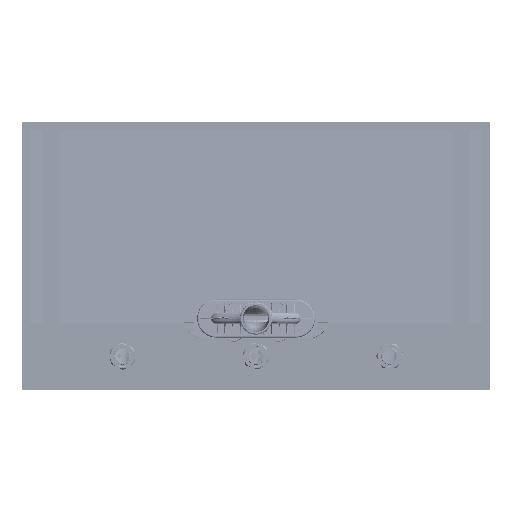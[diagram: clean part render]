
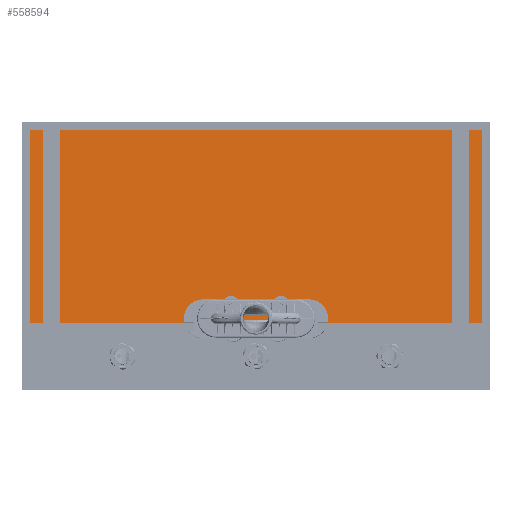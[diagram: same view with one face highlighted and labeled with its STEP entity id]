
A CAD part, front view. The second image highlights one B-rep face of the part: STEP entity #558594.
In plain terms, the highlighted planar face has unit normal (0, -0.999, 0.052).
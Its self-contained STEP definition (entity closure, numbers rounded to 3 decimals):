
#6792 = DIRECTION ( 'NONE',  ( -1., 0., 0. ) ) ;
#6980 = VECTOR ( 'NONE', #243495, 1000. ) ;
#7102 = VECTOR ( 'NONE', #518581, 1000. ) ;
#16462 = EDGE_CURVE ( 'NONE', #416846, #619046, #753327, .T. ) ;
#38619 = FACE_OUTER_BOUND ( 'NONE', #587760, .T. ) ;
#44461 = VECTOR ( 'NONE', #457268, 1000. ) ;
#47380 = EDGE_CURVE ( 'NONE', #416846, #584656, #670614, .T. ) ;
#51666 = ORIENTED_EDGE ( 'NONE', *, *, #176881, .T. ) ;
#67881 = CARTESIAN_POINT ( 'NONE',  ( -376.416, 44.89, -134.072 ) ) ;
#68359 = EDGE_CURVE ( 'NONE', #69633, #272193, #113517, .T. ) ;
#69303 = CARTESIAN_POINT ( 'NONE',  ( 31.584, 45.132, -129.449 ) ) ;
#69633 = VERTEX_POINT ( 'NONE', #612299 ) ;
#75181 = VERTEX_POINT ( 'NONE', #69303 ) ;
#90587 = CARTESIAN_POINT ( 'NONE',  ( 31.584, 44.923, -133.444 ) ) ;
#112195 = VERTEX_POINT ( 'NONE', #655115 ) ;
#112469 = CARTESIAN_POINT ( 'NONE',  ( -376.416, 39.815, -230.917 ) ) ;
#113517 = LINE ( 'NONE', #346751, #579832 ) ;
#124208 = ORIENTED_EDGE ( 'NONE', *, *, #440295, .T. ) ;
#137674 = LINE ( 'NONE', #549375, #248517 ) ;
#149799 = CARTESIAN_POINT ( 'NONE',  ( -108.416, 45.132, -129.449 ) ) ;
#150410 = ORIENTED_EDGE ( 'NONE', *, *, #378262, .T. ) ;
#158412 = CARTESIAN_POINT ( 'NONE',  ( 56.584, 44.89, -134.072 ) ) ;
#166858 = ORIENTED_EDGE ( 'NONE', *, *, #345510, .T. ) ;
#176881 = EDGE_CURVE ( 'NONE', #112195, #736261, #402160, .T. ) ;
#177339 = CARTESIAN_POINT ( 'NONE',  ( -376.416, 59.984, 153.928 ) ) ;
#178509 = ORIENTED_EDGE ( 'NONE', *, *, #47380, .F. ) ;
#185362 = CARTESIAN_POINT ( 'NONE',  ( -679.622, 59.984, 153.928 ) ) ;
#192792 = VECTOR ( 'NONE', #522388, 1000. ) ;
#197510 = VERTEX_POINT ( 'NONE', #90587 ) ;
#201489 = CARTESIAN_POINT ( 'NONE',  ( 299.584, 44.89, -134.072 ) ) ;
#206560 = LINE ( 'NONE', #272407, #400152 ) ;
#209704 = PLANE ( 'NONE',  #682498 ) ;
#215793 = CARTESIAN_POINT ( 'NONE',  ( 299.584, 60.016, 154.556 ) ) ;
#220071 = ORIENTED_EDGE ( 'NONE', *, *, #68359, .T. ) ;
#224210 = LINE ( 'NONE', #158412, #44461 ) ;
#243495 = DIRECTION ( 'NONE',  ( 1., 0., 0. ) ) ;
#248517 = VECTOR ( 'NONE', #669682, 1000. ) ;
#267929 = DIRECTION ( 'NONE',  ( 0., -0.999, 0.052 ) ) ;
#272193 = VERTEX_POINT ( 'NONE', #201489 ) ;
#272407 = CARTESIAN_POINT ( 'NONE',  ( -679.622, 44.89, -134.072 ) ) ;
#279426 = CARTESIAN_POINT ( 'NONE',  ( -679.622, 60.016, 154.556 ) ) ;
#281778 = CARTESIAN_POINT ( 'NONE',  ( -108.416, 44.923, -133.444 ) ) ;
#302170 = LINE ( 'NONE', #538986, #322814 ) ;
#322814 = VECTOR ( 'NONE', #6792, 1000. ) ;
#345510 = EDGE_CURVE ( 'NONE', #736261, #75181, #371396, .T. ) ;
#346751 = CARTESIAN_POINT ( 'NONE',  ( -679.622, 44.89, -134.072 ) ) ;
#349482 = DIRECTION ( 'NONE',  ( 0., -0.052, -0.999 ) ) ;
#369863 = ORIENTED_EDGE ( 'NONE', *, *, #16462, .T. ) ;
#371396 = LINE ( 'NONE', #149799, #706851 ) ;
#378262 = EDGE_CURVE ( 'NONE', #619046, #693165, #206560, .T. ) ;
#400152 = VECTOR ( 'NONE', #556171, 1000. ) ;
#402160 = LINE ( 'NONE', #281778, #7102 ) ;
#416846 = VERTEX_POINT ( 'NONE', #177339 ) ;
#440295 = EDGE_CURVE ( 'NONE', #75181, #197510, #137674, .T. ) ;
#446540 = DIRECTION ( 'NONE',  ( 0., -0.052, -0.999 ) ) ;
#457268 = DIRECTION ( 'NONE',  ( 1., 0., 0. ) ) ;
#490298 = EDGE_LOOP ( 'NONE', ( #51666, #166858, #124208, #511028 ) ) ;
#491608 = DIRECTION ( 'NONE',  ( 1., 0., 0. ) ) ;
#511028 = ORIENTED_EDGE ( 'NONE', *, *, #537631, .T. ) ;
#516502 = CARTESIAN_POINT ( 'NONE',  ( -108.416, 45.132, -129.449 ) ) ;
#518581 = DIRECTION ( 'NONE',  ( 0., 0.052, 0.999 ) ) ;
#522388 = DIRECTION ( 'NONE',  ( 0., -0.052, -0.999 ) ) ;
#537631 = EDGE_CURVE ( 'NONE', #197510, #112195, #302170, .T. ) ;
#538986 = CARTESIAN_POINT ( 'NONE',  ( -108.416, 44.923, -133.444 ) ) ;
#549375 = CARTESIAN_POINT ( 'NONE',  ( 31.584, 44.923, -133.444 ) ) ;
#556171 = DIRECTION ( 'NONE',  ( 1., 0., 0. ) ) ;
#558594 = ADVANCED_FACE ( 'NONE', ( #570784, #38619 ), #209704, .T. ) ;
#570784 = FACE_BOUND ( 'NONE', #490298, .T. ) ;
#579832 = VECTOR ( 'NONE', #657023, 1000. ) ;
#584656 = VERTEX_POINT ( 'NONE', #634783 ) ;
#587760 = EDGE_LOOP ( 'NONE', ( #369863, #150410, #611338, #220071, #589500, #178509 ) ) ;
#589500 = ORIENTED_EDGE ( 'NONE', *, *, #697267, .F. ) ;
#611338 = ORIENTED_EDGE ( 'NONE', *, *, #671181, .T. ) ;
#612299 = CARTESIAN_POINT ( 'NONE',  ( 56.584, 44.89, -134.072 ) ) ;
#619046 = VERTEX_POINT ( 'NONE', #67881 ) ;
#622700 = VECTOR ( 'NONE', #349482, 1000. ) ;
#628096 = CARTESIAN_POINT ( 'NONE',  ( -133.416, 44.89, -134.072 ) ) ;
#634783 = CARTESIAN_POINT ( 'NONE',  ( 299.584, 59.984, 153.928 ) ) ;
#655115 = CARTESIAN_POINT ( 'NONE',  ( -108.416, 44.923, -133.444 ) ) ;
#657023 = DIRECTION ( 'NONE',  ( 1., 0., 0. ) ) ;
#669682 = DIRECTION ( 'NONE',  ( 0., -0.052, -0.999 ) ) ;
#670614 = LINE ( 'NONE', #185362, #6980 ) ;
#671181 = EDGE_CURVE ( 'NONE', #693165, #69633, #224210, .T. ) ;
#682498 = AXIS2_PLACEMENT_3D ( 'NONE', #279426, #267929, #446540 ) ;
#693165 = VERTEX_POINT ( 'NONE', #628096 ) ;
#697267 = EDGE_CURVE ( 'NONE', #584656, #272193, #747771, .T. ) ;
#706851 = VECTOR ( 'NONE', #491608, 1000. ) ;
#736261 = VERTEX_POINT ( 'NONE', #516502 ) ;
#747771 = LINE ( 'NONE', #215793, #192792 ) ;
#753327 = LINE ( 'NONE', #112469, #622700 ) ;
